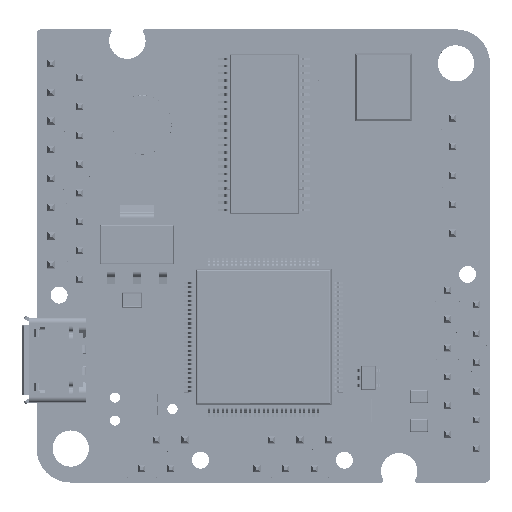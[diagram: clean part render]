
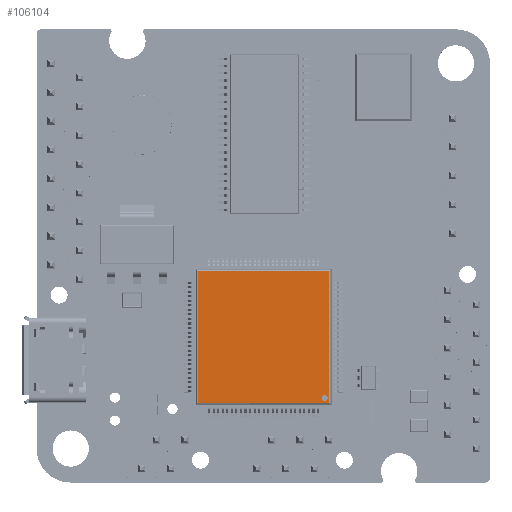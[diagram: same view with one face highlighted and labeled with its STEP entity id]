
A CAD part, top view. The second image highlights one B-rep face of the part: STEP entity #106104.
In plain terms, the highlighted planar face has unit normal (0, 0, 1) as drawn and (0, 1, 0) by its records, which use the part's own axes.
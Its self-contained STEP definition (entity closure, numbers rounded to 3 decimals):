
#2526 = VERTEX_POINT ( 'NONE', #79387 ) ;
#5559 = EDGE_CURVE ( 'NONE', #2526, #245451, #279673, .T. ) ;
#8816 = CARTESIAN_POINT ( 'NONE',  ( -5.389, 1.35, -5.389 ) ) ;
#10551 = DIRECTION ( 'NONE',  ( 1., 0., 0. ) ) ;
#22176 = VECTOR ( 'NONE', #238846, 1000. ) ;
#29091 = DIRECTION ( 'NONE',  ( 0., 0., 1. ) ) ;
#38906 = CARTESIAN_POINT ( 'NONE',  ( 5.808, 1.35, 5.808 ) ) ;
#47815 = EDGE_LOOP ( 'NONE', ( #83447, #187231, #73724, #200287 ) ) ;
#52187 = VECTOR ( 'NONE', #286327, 1000. ) ;
#53228 = CARTESIAN_POINT ( 'NONE',  ( -5.808, 1.35, 5.808 ) ) ;
#67540 = CARTESIAN_POINT ( 'NONE',  ( -5.389, 1.35, -5.389 ) ) ;
#69031 = CARTESIAN_POINT ( 'NONE',  ( 5.808, 1.35, -5.889 ) ) ;
#73724 = ORIENTED_EDGE ( 'NONE', *, *, #279214, .T. ) ;
#79387 = CARTESIAN_POINT ( 'NONE',  ( -5.808, 1.35, -5.808 ) ) ;
#80660 = VERTEX_POINT ( 'NONE', #290898 ) ;
#83447 = ORIENTED_EDGE ( 'NONE', *, *, #5559, .T. ) ;
#94605 = LINE ( 'NONE', #164594, #22176 ) ;
#95500 = CIRCLE ( 'NONE', #100044, 0.264 ) ;
#98865 = CARTESIAN_POINT ( 'NONE',  ( -5.808, 1.35, 5.889 ) ) ;
#100044 = AXIS2_PLACEMENT_3D ( 'NONE', #67540, #167043, #263697 ) ;
#106104 = ADVANCED_FACE ( 'NONE', ( #302936, #200441 ), #191907, .F. ) ;
#122983 = CARTESIAN_POINT ( 'NONE',  ( -6., 1.35, -6. ) ) ;
#123512 = LINE ( 'NONE', #275852, #245122 ) ;
#142545 = ORIENTED_EDGE ( 'NONE', *, *, #311788, .F. ) ;
#151125 = DIRECTION ( 'NONE',  ( 0., 0., -1. ) ) ;
#164594 = CARTESIAN_POINT ( 'NONE',  ( -5.889, 1.35, -5.808 ) ) ;
#165757 = EDGE_CURVE ( 'NONE', #245451, #257689, #123512, .T. ) ;
#167043 = DIRECTION ( 'NONE',  ( 0., 1., 0. ) ) ;
#184403 = EDGE_CURVE ( 'NONE', #301391, #2526, #94605, .T. ) ;
#187231 = ORIENTED_EDGE ( 'NONE', *, *, #165757, .T. ) ;
#191907 = PLANE ( 'NONE',  #277257 ) ;
#200287 = ORIENTED_EDGE ( 'NONE', *, *, #184403, .T. ) ;
#200441 = FACE_OUTER_BOUND ( 'NONE', #47815, .T. ) ;
#201947 = DIRECTION ( 'NONE',  ( 0., 1., 0. ) ) ;
#215132 = LINE ( 'NONE', #69031, #52187 ) ;
#224710 = DIRECTION ( 'NONE',  ( 0., 0., 1. ) ) ;
#231072 = AXIS2_PLACEMENT_3D ( 'NONE', #8816, #201947, #29091 ) ;
#238846 = DIRECTION ( 'NONE',  ( -1., 0., 0. ) ) ;
#245122 = VECTOR ( 'NONE', #10551, 1000. ) ;
#245451 = VERTEX_POINT ( 'NONE', #53228 ) ;
#257689 = VERTEX_POINT ( 'NONE', #38906 ) ;
#263697 = DIRECTION ( 'NONE',  ( 0., 0., 1. ) ) ;
#269594 = VERTEX_POINT ( 'NONE', #288324 ) ;
#271264 = EDGE_LOOP ( 'NONE', ( #302325, #142545 ) ) ;
#275852 = CARTESIAN_POINT ( 'NONE',  ( 5.889, 1.35, 5.808 ) ) ;
#277257 = AXIS2_PLACEMENT_3D ( 'NONE', #122983, #303887, #151125 ) ;
#279214 = EDGE_CURVE ( 'NONE', #257689, #301391, #215132, .T. ) ;
#279673 = LINE ( 'NONE', #98865, #294830 ) ;
#281444 = EDGE_CURVE ( 'NONE', #269594, #80660, #95500, .T. ) ;
#286327 = DIRECTION ( 'NONE',  ( 0., 0., -1. ) ) ;
#288324 = CARTESIAN_POINT ( 'NONE',  ( -5.389, 1.35, -5.126 ) ) ;
#290898 = CARTESIAN_POINT ( 'NONE',  ( -5.389, 1.35, -5.653 ) ) ;
#294830 = VECTOR ( 'NONE', #224710, 1000. ) ;
#299088 = CIRCLE ( 'NONE', #231072, 0.264 ) ;
#301391 = VERTEX_POINT ( 'NONE', #303220 ) ;
#302325 = ORIENTED_EDGE ( 'NONE', *, *, #281444, .F. ) ;
#302936 = FACE_BOUND ( 'NONE', #271264, .T. ) ;
#303220 = CARTESIAN_POINT ( 'NONE',  ( 5.808, 1.35, -5.808 ) ) ;
#303887 = DIRECTION ( 'NONE',  ( 0., -1., 0. ) ) ;
#311788 = EDGE_CURVE ( 'NONE', #80660, #269594, #299088, .T. ) ;
